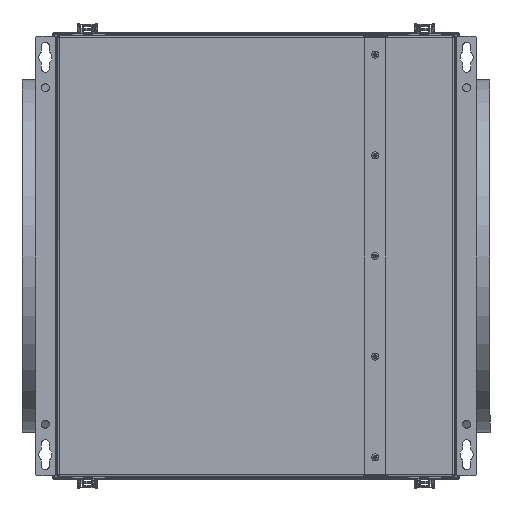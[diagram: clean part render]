
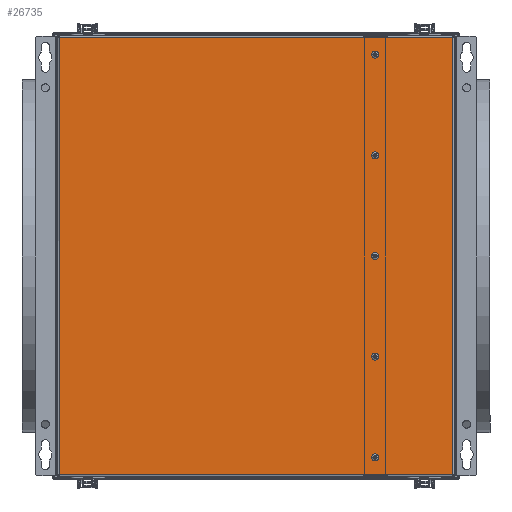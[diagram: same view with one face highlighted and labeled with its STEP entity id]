
A CAD part, front view. The second image highlights one B-rep face of the part: STEP entity #26735.
In plain terms, the highlighted planar face has unit normal (0, -1, 0).
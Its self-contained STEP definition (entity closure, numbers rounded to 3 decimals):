
#146 = CARTESIAN_POINT ( 'NONE',  ( 135., 0., 0. ) ) ;
#215 = CARTESIAN_POINT ( 'NONE',  ( 223., 0., -248. ) ) ;
#530 = LINE ( 'NONE', #22372, #18074 ) ;
#591 = DIRECTION ( 'NONE',  ( 1., 0., 0. ) ) ;
#820 = EDGE_LOOP ( 'NONE', ( #963, #20186 ) ) ;
#963 = ORIENTED_EDGE ( 'NONE', *, *, #28163, .F. ) ;
#981 = CARTESIAN_POINT ( 'NONE',  ( 135., 0., -116.1 ) ) ;
#1415 = CIRCLE ( 'NONE', #16844, 2.1 ) ;
#1826 = CARTESIAN_POINT ( 'NONE',  ( 135., 0., -225.9 ) ) ;
#2431 = DIRECTION ( 'NONE',  ( 0., 0., -1. ) ) ;
#2593 = AXIS2_PLACEMENT_3D ( 'NONE', #26541, #10525, #3557 ) ;
#2695 = VECTOR ( 'NONE', #22270, 1000. ) ;
#2780 = CARTESIAN_POINT ( 'NONE',  ( -225., 0., -248. ) ) ;
#2811 = CARTESIAN_POINT ( 'NONE',  ( -223., 0., 248. ) ) ;
#2865 = CARTESIAN_POINT ( 'NONE',  ( -225., 0., 250. ) ) ;
#3248 = EDGE_CURVE ( 'NONE', #28669, #12793, #23328, .T. ) ;
#3557 = DIRECTION ( 'NONE',  ( 0., 0., -1. ) ) ;
#3583 = AXIS2_PLACEMENT_3D ( 'NONE', #19114, #5373, #21400 ) ;
#3618 = EDGE_LOOP ( 'NONE', ( #16554, #24022 ) ) ;
#3643 = CIRCLE ( 'NONE', #6391, 2.1 ) ;
#3935 = CARTESIAN_POINT ( 'NONE',  ( 225., 0., 248. ) ) ;
#4048 = LINE ( 'NONE', #2780, #21625 ) ;
#4182 = ORIENTED_EDGE ( 'NONE', *, *, #22266, .T. ) ;
#4469 = EDGE_CURVE ( 'NONE', #6120, #11659, #21157, .T. ) ;
#4582 = CARTESIAN_POINT ( 'NONE',  ( 135., 0., -114. ) ) ;
#4812 = ORIENTED_EDGE ( 'NONE', *, *, #4469, .F. ) ;
#5178 = DIRECTION ( 'NONE',  ( 0., 0., 1. ) ) ;
#5302 = CARTESIAN_POINT ( 'NONE',  ( 135., 0., 114. ) ) ;
#5322 = VERTEX_POINT ( 'NONE', #215 ) ;
#5373 = DIRECTION ( 'NONE',  ( 0., -1., 0. ) ) ;
#5378 = DIRECTION ( 'NONE',  ( 0., -1., 0. ) ) ;
#5403 = CIRCLE ( 'NONE', #3583, 2.1 ) ;
#5601 = AXIS2_PLACEMENT_3D ( 'NONE', #20561, #6837, #22856 ) ;
#5950 = EDGE_LOOP ( 'NONE', ( #27407, #10154 ) ) ;
#6120 = VERTEX_POINT ( 'NONE', #21211 ) ;
#6371 = DIRECTION ( 'NONE',  ( 0., -1., 0. ) ) ;
#6391 = AXIS2_PLACEMENT_3D ( 'NONE', #4582, #20626, #6902 ) ;
#6605 = VERTEX_POINT ( 'NONE', #20462 ) ;
#6837 = DIRECTION ( 'NONE',  ( 0., -1., 0. ) ) ;
#6902 = DIRECTION ( 'NONE',  ( 0., 0., -1. ) ) ;
#7010 = VERTEX_POINT ( 'NONE', #2811 ) ;
#7360 = ORIENTED_EDGE ( 'NONE', *, *, #9614, .T. ) ;
#7475 = CARTESIAN_POINT ( 'NONE',  ( 135., 0., -228. ) ) ;
#7621 = DIRECTION ( 'NONE',  ( 0., 0., -1. ) ) ;
#8169 = CARTESIAN_POINT ( 'NONE',  ( 223., 0., 248. ) ) ;
#8439 = VERTEX_POINT ( 'NONE', #8169 ) ;
#8645 = DIRECTION ( 'NONE',  ( 0., 0., -1. ) ) ;
#8931 = AXIS2_PLACEMENT_3D ( 'NONE', #19117, #5378, #21403 ) ;
#9119 = ORIENTED_EDGE ( 'NONE', *, *, #18592, .F. ) ;
#9540 = LINE ( 'NONE', #3935, #2695 ) ;
#9601 = CIRCLE ( 'NONE', #5601, 2.1 ) ;
#9614 = EDGE_CURVE ( 'NONE', #26990, #5322, #4048, .T. ) ;
#9639 = VERTEX_POINT ( 'NONE', #9832 ) ;
#9796 = DIRECTION ( 'NONE',  ( 0., 0., -1. ) ) ;
#9832 = CARTESIAN_POINT ( 'NONE',  ( 135., 0., 111.9 ) ) ;
#10046 = AXIS2_PLACEMENT_3D ( 'NONE', #10221, #26234, #12515 ) ;
#10148 = AXIS2_PLACEMENT_3D ( 'NONE', #5302, #21329, #7621 ) ;
#10154 = ORIENTED_EDGE ( 'NONE', *, *, #12561, .F. ) ;
#10221 = CARTESIAN_POINT ( 'NONE',  ( 135., 0., 114. ) ) ;
#10426 = EDGE_CURVE ( 'NONE', #12159, #26569, #3643, .T. ) ;
#10525 = DIRECTION ( 'NONE',  ( 0., -1., 0. ) ) ;
#10644 = EDGE_LOOP ( 'NONE', ( #4812, #9119 ) ) ;
#11649 = CARTESIAN_POINT ( 'NONE',  ( 135., 0., -111.9 ) ) ;
#11659 = VERTEX_POINT ( 'NONE', #14726 ) ;
#11714 = AXIS2_PLACEMENT_3D ( 'NONE', #7475, #23517, #9796 ) ;
#12030 = DIRECTION ( 'NONE',  ( 0., 1., 0. ) ) ;
#12159 = VERTEX_POINT ( 'NONE', #981 ) ;
#12289 = CIRCLE ( 'NONE', #8931, 2.1 ) ;
#12382 = CARTESIAN_POINT ( 'NONE',  ( 135., 0., 225.9 ) ) ;
#12515 = DIRECTION ( 'NONE',  ( 0., 0., -1. ) ) ;
#12561 = EDGE_CURVE ( 'NONE', #26569, #12159, #12289, .T. ) ;
#12793 = VERTEX_POINT ( 'NONE', #27477 ) ;
#13442 = EDGE_CURVE ( 'NONE', #6605, #9639, #27993, .T. ) ;
#14270 = AXIS2_PLACEMENT_3D ( 'NONE', #15447, #6371, #29052 ) ;
#14495 = LINE ( 'NONE', #21352, #29148 ) ;
#14604 = EDGE_LOOP ( 'NONE', ( #25093, #7360, #16291, #4182 ) ) ;
#14726 = CARTESIAN_POINT ( 'NONE',  ( 135., 0., 2.1 ) ) ;
#15023 = CIRCLE ( 'NONE', #11714, 2.1 ) ;
#15447 = CARTESIAN_POINT ( 'NONE',  ( 135., 0., 228. ) ) ;
#16081 = FACE_BOUND ( 'NONE', #19633, .T. ) ;
#16165 = DIRECTION ( 'NONE',  ( 0., -1., 0. ) ) ;
#16291 = ORIENTED_EDGE ( 'NONE', *, *, #29317, .T. ) ;
#16554 = ORIENTED_EDGE ( 'NONE', *, *, #3248, .F. ) ;
#16599 = PLANE ( 'NONE',  #23225 ) ;
#16786 = FACE_BOUND ( 'NONE', #820, .T. ) ;
#16844 = AXIS2_PLACEMENT_3D ( 'NONE', #146, #16165, #2431 ) ;
#18074 = VECTOR ( 'NONE', #8645, 1000. ) ;
#18183 = EDGE_CURVE ( 'NONE', #20014, #18500, #5403, .T. ) ;
#18500 = VERTEX_POINT ( 'NONE', #1826 ) ;
#18592 = EDGE_CURVE ( 'NONE', #11659, #6120, #1415, .T. ) ;
#19114 = CARTESIAN_POINT ( 'NONE',  ( 135., 0., -228. ) ) ;
#19117 = CARTESIAN_POINT ( 'NONE',  ( 135., 0., -114. ) ) ;
#19633 = EDGE_LOOP ( 'NONE', ( #24483, #25096 ) ) ;
#20014 = VERTEX_POINT ( 'NONE', #24129 ) ;
#20186 = ORIENTED_EDGE ( 'NONE', *, *, #13442, .F. ) ;
#20462 = CARTESIAN_POINT ( 'NONE',  ( 135., 0., 116.1 ) ) ;
#20561 = CARTESIAN_POINT ( 'NONE',  ( 135., 0., 228. ) ) ;
#20626 = DIRECTION ( 'NONE',  ( 0., -1., 0. ) ) ;
#21157 = CIRCLE ( 'NONE', #2593, 2.1 ) ;
#21211 = CARTESIAN_POINT ( 'NONE',  ( 135., 0., -2.1 ) ) ;
#21329 = DIRECTION ( 'NONE',  ( 0., -1., 0. ) ) ;
#21352 = CARTESIAN_POINT ( 'NONE',  ( 223., 0., -248. ) ) ;
#21400 = DIRECTION ( 'NONE',  ( 0., 0., -1. ) ) ;
#21403 = DIRECTION ( 'NONE',  ( 0., 0., -1. ) ) ;
#21625 = VECTOR ( 'NONE', #591, 1000. ) ;
#22152 = FACE_BOUND ( 'NONE', #3618, .T. ) ;
#22266 = EDGE_CURVE ( 'NONE', #8439, #7010, #9540, .T. ) ;
#22270 = DIRECTION ( 'NONE',  ( -1., 0., 0. ) ) ;
#22372 = CARTESIAN_POINT ( 'NONE',  ( -223., 0., 248. ) ) ;
#22856 = DIRECTION ( 'NONE',  ( 0., 0., -1. ) ) ;
#22895 = FACE_BOUND ( 'NONE', #5950, .T. ) ;
#23225 = AXIS2_PLACEMENT_3D ( 'NONE', #2865, #12030, #5178 ) ;
#23328 = CIRCLE ( 'NONE', #14270, 2.1 ) ;
#23517 = DIRECTION ( 'NONE',  ( 0., -1., 0. ) ) ;
#23544 = CIRCLE ( 'NONE', #10046, 2.1 ) ;
#24022 = ORIENTED_EDGE ( 'NONE', *, *, #27505, .F. ) ;
#24129 = CARTESIAN_POINT ( 'NONE',  ( 135., 0., -230.1 ) ) ;
#24483 = ORIENTED_EDGE ( 'NONE', *, *, #18183, .F. ) ;
#25093 = ORIENTED_EDGE ( 'NONE', *, *, #29003, .T. ) ;
#25096 = ORIENTED_EDGE ( 'NONE', *, *, #25956, .F. ) ;
#25956 = EDGE_CURVE ( 'NONE', #18500, #20014, #15023, .T. ) ;
#26234 = DIRECTION ( 'NONE',  ( 0., -1., 0. ) ) ;
#26541 = CARTESIAN_POINT ( 'NONE',  ( 135., 0., 0. ) ) ;
#26569 = VERTEX_POINT ( 'NONE', #11649 ) ;
#26735 = ADVANCED_FACE ( 'NONE', ( #16786, #22152, #28941, #28264, #22895, #16081 ), #16599, .F. ) ;
#26990 = VERTEX_POINT ( 'NONE', #29372 ) ;
#27407 = ORIENTED_EDGE ( 'NONE', *, *, #10426, .F. ) ;
#27477 = CARTESIAN_POINT ( 'NONE',  ( 135., 0., 230.1 ) ) ;
#27505 = EDGE_CURVE ( 'NONE', #12793, #28669, #9601, .T. ) ;
#27993 = CIRCLE ( 'NONE', #10148, 2.1 ) ;
#28163 = EDGE_CURVE ( 'NONE', #9639, #6605, #23544, .T. ) ;
#28166 = DIRECTION ( 'NONE',  ( 0., 0., 1. ) ) ;
#28264 = FACE_BOUND ( 'NONE', #10644, .T. ) ;
#28669 = VERTEX_POINT ( 'NONE', #12382 ) ;
#28941 = FACE_OUTER_BOUND ( 'NONE', #14604, .T. ) ;
#29003 = EDGE_CURVE ( 'NONE', #7010, #26990, #530, .T. ) ;
#29052 = DIRECTION ( 'NONE',  ( 0., 0., -1. ) ) ;
#29148 = VECTOR ( 'NONE', #28166, 1000. ) ;
#29317 = EDGE_CURVE ( 'NONE', #5322, #8439, #14495, .T. ) ;
#29372 = CARTESIAN_POINT ( 'NONE',  ( -223., 0., -248. ) ) ;
